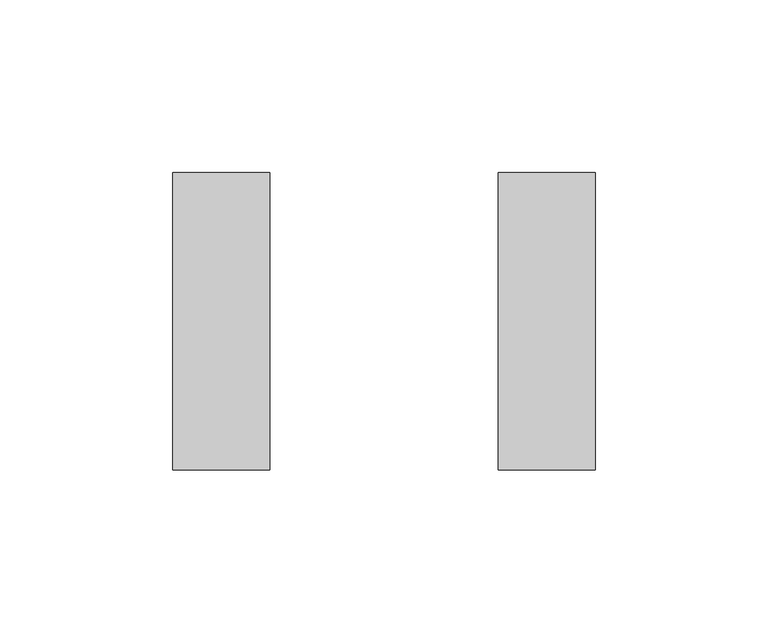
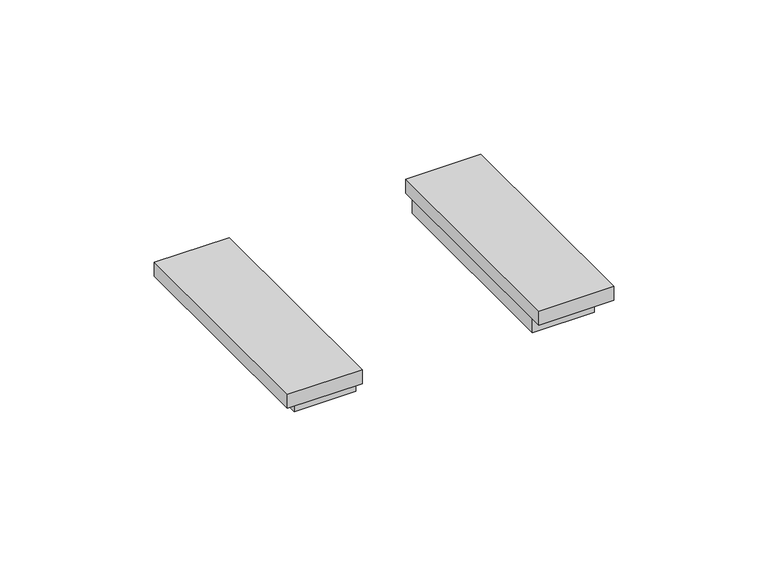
"""IFC4 building model written with IfcOpenShell, lengths in millimetres: proxy geometry, BT_LN_PlaccaSuperficiale_Placca : Living Now - Placca 3 Moduli."""

from ifc_helpers import new_model, si_unit, frame, origin, origin_with_axes, place, context, project, spatial, polyline, outline, extrude, source, transform, mapped, element, save


def electrical_equipment_9f0ce258(model_context):
    return source(origin(), model_context, "Body", "SweptSolid", [
        extrude(outline(polyline([(33.0, -43.0), (33.0, 43.0), (61.0, 43.0), (61.0, -43.0), (33.0, -43.0)])), frame((0.0, 0.0, 5.5), z_axis=(0.0, 0.0, 1.0), x_axis=(1.0, 0.0, 0.0)), (0.0, 0.0, 1.0), 5.5),
        extrude(outline(polyline([(-61.0, -43.0), (-61.0, 43.0), (-33.0, 43.0), (-33.0, -43.0), (-61.0, -43.0)])), frame((0.0, 0.0, 5.5), z_axis=(0.0, 0.0, 1.0), x_axis=(1.0, 0.0, 0.0)), (0.0, 0.0, 1.0), 5.5),
        extrude(outline(polyline([(33.0, -39.0), (33.0, 39.0), (56.0, 39.0), (56.0, -39.0), (33.0, -39.0)])), origin_with_axes(), (0.0, 0.0, 1.0), 5.5),
        extrude(outline(polyline([(-33.0, 39.0), (-33.0, -39.0), (-56.0, -39.0), (-56.0, 39.0), (-33.0, 39.0)])), origin_with_axes(), (0.0, 0.0, 1.0), 5.5),
    ])


if __name__ == "__main__":
    model = new_model("IFC4")
    model_context = context("Model", 3, world=origin())
    ifc_project = project(units=[si_unit("LENGTHUNIT", "METRE", prefix="MILLI")], contexts=[model_context])
    site = spatial("IfcSite", under=ifc_project)
    building = spatial("IfcBuilding", under=site)
    placement = place(None, origin())
    electrical_equipment_shape = electrical_equipment_9f0ce258(model_context)
    element("IfcBuildingElementProxy", 1, Name="BT_LN_PlaccaSuperficiale_Placca : Living Now - Placca 3 Moduli", ObjectType="BT_LN_PlaccaSuperficiale_Placca : Living Now - Placca 3 Moduli", at=placement, inside=building, context=model_context, shape_type="MappedRepresentation", body=[
        mapped(electrical_equipment_shape, transform((0.0, 0.0, 0.0), x_axis=(1.0, 0.0, 0.0), y_axis=(0.0, 1.0, 0.0), z_axis=(0.0, 0.0, 1.0))),
    ])
    save(model, "model.ifc")
